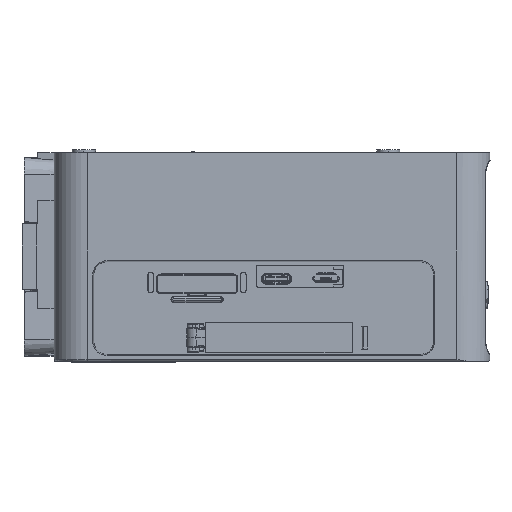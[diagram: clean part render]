
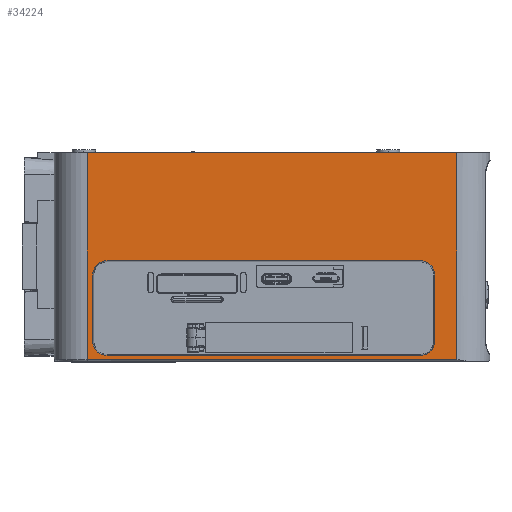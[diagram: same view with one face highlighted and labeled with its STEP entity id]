
A CAD part, left-side view. The second image highlights one B-rep face of the part: STEP entity #34224.
In plain terms, the highlighted planar face has unit normal (-1, 0, 0).
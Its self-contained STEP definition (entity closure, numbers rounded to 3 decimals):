
#287 = CARTESIAN_POINT ( 'NONE',  ( 2.732, -25.7, -33.486 ) ) ;
#364 = EDGE_CURVE ( 'NONE', #19535, #15890, #62365, .T. ) ;
#518 = CARTESIAN_POINT ( 'NONE',  ( 2.732, -25.7, -62.114 ) ) ;
#569 = LINE ( 'NONE', #69677, #41893 ) ;
#1931 = CIRCLE ( 'NONE', #13244, 4.314 ) ;
#3003 = DIRECTION ( 'NONE',  ( 0., 0., -1. ) ) ;
#3509 = DIRECTION ( 'NONE',  ( 0., 0., 1. ) ) ;
#3895 = EDGE_LOOP ( 'NONE', ( #66791, #24551, #43688, #34634, #81819, #60592, #81714, #26758 ) ) ;
#5045 = DIRECTION ( 'NONE',  ( 0., 1., 0. ) ) ;
#5536 = DIRECTION ( 'NONE',  ( -1., 0., 0. ) ) ;
#5867 = CARTESIAN_POINT ( 'NONE',  ( 2.732, -9.7, -62.114 ) ) ;
#7638 = DIRECTION ( 'NONE',  ( -1., 0., 0. ) ) ;
#8259 = EDGE_CURVE ( 'NONE', #15890, #25547, #1931, .T. ) ;
#8933 = DIRECTION ( 'NONE',  ( 0., 0., 1. ) ) ;
#11036 = AXIS2_PLACEMENT_3D ( 'NONE', #29265, #66092, #82239 ) ;
#11295 = EDGE_CURVE ( 'NONE', #58126, #87909, #29124, .T. ) ;
#11804 = VECTOR ( 'NONE', #59297, 1000. ) ;
#13244 = AXIS2_PLACEMENT_3D ( 'NONE', #57464, #72622, #3509 ) ;
#13468 = EDGE_CURVE ( 'NONE', #25547, #83303, #569, .T. ) ;
#14108 = AXIS2_PLACEMENT_3D ( 'NONE', #43860, #5536, #57982 ) ;
#15890 = VERTEX_POINT ( 'NONE', #75401 ) ;
#16520 = EDGE_CURVE ( 'NONE', #44897, #97567, #43282, .T. ) ;
#17393 = AXIS2_PLACEMENT_3D ( 'NONE', #72780, #42999, #73749 ) ;
#18240 = CARTESIAN_POINT ( 'NONE',  ( 2.732, -21.386, -57.8 ) ) ;
#19202 = CARTESIAN_POINT ( 'NONE',  ( 2.732, -131.4, -0.8 ) ) ;
#19535 = VERTEX_POINT ( 'NONE', #30276 ) ;
#23035 = EDGE_CURVE ( 'NONE', #81555, #80017, #73144, .T. ) ;
#24551 = ORIENTED_EDGE ( 'NONE', *, *, #13468, .F. ) ;
#25547 = VERTEX_POINT ( 'NONE', #89412 ) ;
#25807 = VECTOR ( 'NONE', #3003, 1000. ) ;
#26758 = ORIENTED_EDGE ( 'NONE', *, *, #41045, .F. ) ;
#27237 = FACE_BOUND ( 'NONE', #3895, .T. ) ;
#28672 = EDGE_LOOP ( 'NONE', ( #52065, #55298, #87901, #51566 ) ) ;
#29124 = LINE ( 'NONE', #19202, #65934 ) ;
#29265 = CARTESIAN_POINT ( 'NONE',  ( 2.732, -25.7, -57.8 ) ) ;
#29348 = DIRECTION ( 'NONE',  ( 0., 0., 1. ) ) ;
#30276 = CARTESIAN_POINT ( 'NONE',  ( 2.732, -124.714, -57.8 ) ) ;
#30639 = CARTESIAN_POINT ( 'NONE',  ( 2.732, -124.714, -63.8 ) ) ;
#32297 = LINE ( 'NONE', #78665, #25807 ) ;
#33090 = VERTEX_POINT ( 'NONE', #75984 ) ;
#34224 = ADVANCED_FACE ( 'NONE', ( #89246, #27237 ), #82703, .T. ) ;
#34323 = DIRECTION ( 'NONE',  ( 0., -1., 0. ) ) ;
#34634 = ORIENTED_EDGE ( 'NONE', *, *, #364, .F. ) ;
#38111 = CARTESIAN_POINT ( 'NONE',  ( 2.732, -19.7, -0.8 ) ) ;
#38209 = DIRECTION ( 'NONE',  ( 0., 0., 1. ) ) ;
#38395 = CIRCLE ( 'NONE', #94758, 4.314 ) ;
#41045 = EDGE_CURVE ( 'NONE', #51691, #44897, #47390, .T. ) ;
#41893 = VECTOR ( 'NONE', #91879, 1000. ) ;
#42999 = DIRECTION ( 'NONE',  ( -1., 0., 0. ) ) ;
#43282 = CIRCLE ( 'NONE', #11036, 4.314 ) ;
#43688 = ORIENTED_EDGE ( 'NONE', *, *, #8259, .F. ) ;
#43860 = CARTESIAN_POINT ( 'NONE',  ( 2.732, -9.7, -63.8 ) ) ;
#44897 = VERTEX_POINT ( 'NONE', #18240 ) ;
#47092 = VECTOR ( 'NONE', #8933, 1000. ) ;
#47390 = LINE ( 'NONE', #47883, #95650 ) ;
#47883 = CARTESIAN_POINT ( 'NONE',  ( 2.732, -21.386, -63.8 ) ) ;
#49770 = LINE ( 'NONE', #95662, #47092 ) ;
#51566 = ORIENTED_EDGE ( 'NONE', *, *, #23035, .F. ) ;
#51691 = VERTEX_POINT ( 'NONE', #56693 ) ;
#52065 = ORIENTED_EDGE ( 'NONE', *, *, #75377, .F. ) ;
#55298 = ORIENTED_EDGE ( 'NONE', *, *, #11295, .F. ) ;
#55408 = EDGE_CURVE ( 'NONE', #33090, #19535, #38395, .T. ) ;
#56693 = CARTESIAN_POINT ( 'NONE',  ( 2.732, -21.386, -37.8 ) ) ;
#57464 = CARTESIAN_POINT ( 'NONE',  ( 2.732, -120.4, -37.8 ) ) ;
#57982 = DIRECTION ( 'NONE',  ( 0., 0., 1. ) ) ;
#58126 = VERTEX_POINT ( 'NONE', #38111 ) ;
#59297 = DIRECTION ( 'NONE',  ( 0., -1., 0. ) ) ;
#60592 = ORIENTED_EDGE ( 'NONE', *, *, #81311, .F. ) ;
#61561 = VECTOR ( 'NONE', #38209, 1000. ) ;
#62117 = VECTOR ( 'NONE', #5045, 1000. ) ;
#62365 = LINE ( 'NONE', #30639, #61561 ) ;
#65934 = VECTOR ( 'NONE', #34323, 1000. ) ;
#66092 = DIRECTION ( 'NONE',  ( -1., 0., 0. ) ) ;
#66791 = ORIENTED_EDGE ( 'NONE', *, *, #92383, .F. ) ;
#69180 = CARTESIAN_POINT ( 'NONE',  ( 2.732, -120.4, -57.8 ) ) ;
#69677 = CARTESIAN_POINT ( 'NONE',  ( 2.732, -9.7, -33.486 ) ) ;
#72622 = DIRECTION ( 'NONE',  ( -1., 0., 0. ) ) ;
#72780 = CARTESIAN_POINT ( 'NONE',  ( 2.732, -25.7, -37.8 ) ) ;
#73144 = LINE ( 'NONE', #89258, #62117 ) ;
#73749 = DIRECTION ( 'NONE',  ( 0., 0., 1. ) ) ;
#75377 = EDGE_CURVE ( 'NONE', #87909, #81555, #32297, .T. ) ;
#75401 = CARTESIAN_POINT ( 'NONE',  ( 2.732, -124.714, -37.8 ) ) ;
#75984 = CARTESIAN_POINT ( 'NONE',  ( 2.732, -120.4, -62.114 ) ) ;
#78665 = CARTESIAN_POINT ( 'NONE',  ( 2.732, -131.4, 81.327 ) ) ;
#79039 = CARTESIAN_POINT ( 'NONE',  ( 2.732, -19.7, -63.3 ) ) ;
#79961 = EDGE_CURVE ( 'NONE', #80017, #58126, #49770, .T. ) ;
#80017 = VERTEX_POINT ( 'NONE', #79039 ) ;
#81311 = EDGE_CURVE ( 'NONE', #97567, #33090, #89573, .T. ) ;
#81555 = VERTEX_POINT ( 'NONE', #82272 ) ;
#81714 = ORIENTED_EDGE ( 'NONE', *, *, #16520, .F. ) ;
#81819 = ORIENTED_EDGE ( 'NONE', *, *, #55408, .F. ) ;
#81833 = CIRCLE ( 'NONE', #17393, 4.314 ) ;
#82239 = DIRECTION ( 'NONE',  ( 0., 0., 1. ) ) ;
#82272 = CARTESIAN_POINT ( 'NONE',  ( 2.732, -131.4, -63.3 ) ) ;
#82703 = PLANE ( 'NONE',  #14108 ) ;
#83303 = VERTEX_POINT ( 'NONE', #287 ) ;
#87232 = DIRECTION ( 'NONE',  ( 0., 0., -1. ) ) ;
#87901 = ORIENTED_EDGE ( 'NONE', *, *, #79961, .F. ) ;
#87909 = VERTEX_POINT ( 'NONE', #87930 ) ;
#87930 = CARTESIAN_POINT ( 'NONE',  ( 2.732, -131.4, -0.8 ) ) ;
#89246 = FACE_OUTER_BOUND ( 'NONE', #28672, .T. ) ;
#89258 = CARTESIAN_POINT ( 'NONE',  ( 2.732, -131.922, -63.3 ) ) ;
#89412 = CARTESIAN_POINT ( 'NONE',  ( 2.732, -120.4, -33.486 ) ) ;
#89573 = LINE ( 'NONE', #5867, #11804 ) ;
#91879 = DIRECTION ( 'NONE',  ( 0., 1., 0. ) ) ;
#92383 = EDGE_CURVE ( 'NONE', #83303, #51691, #81833, .T. ) ;
#94758 = AXIS2_PLACEMENT_3D ( 'NONE', #69180, #7638, #29348 ) ;
#95650 = VECTOR ( 'NONE', #87232, 1000. ) ;
#95662 = CARTESIAN_POINT ( 'NONE',  ( 2.732, -19.7, 81.327 ) ) ;
#97567 = VERTEX_POINT ( 'NONE', #518 ) ;
